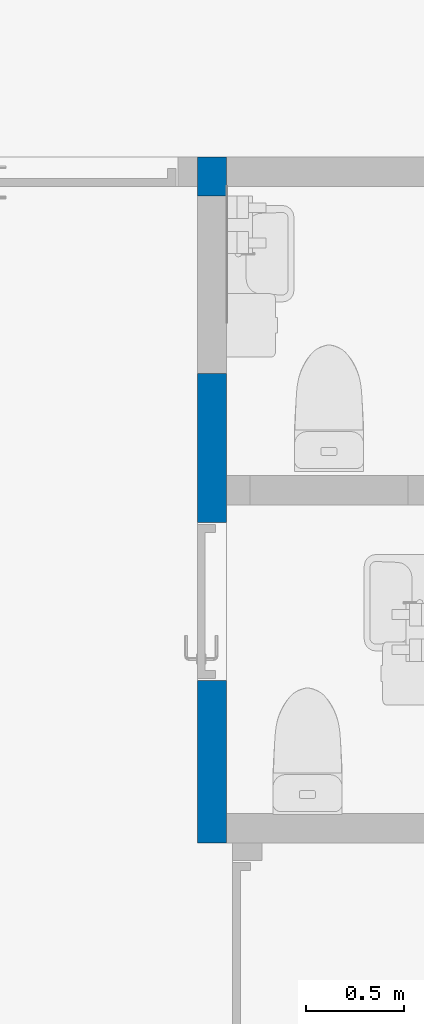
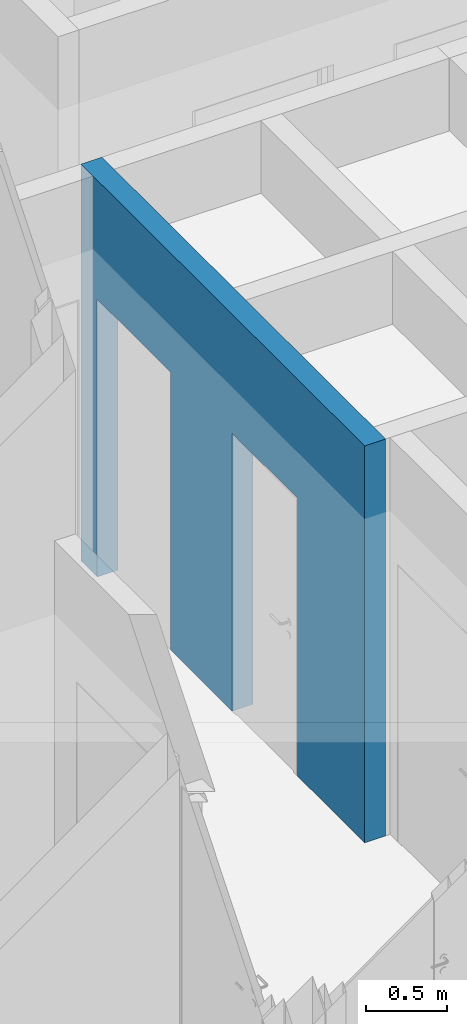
# One storey, part 7 of 58: 1 wall, 2 openings.
"""IFC2X3 building model written with IfcOpenShell, lengths in millimetres."""

from ifc_helpers import new_model, entity, si_unit, converted_unit, derived_unit, direction, frame, frame_2d, origin, place, context, subcontext, project, spatial, rectangle, extrude, material, layer, layer_set, layer_usage, type_object, element, save


model = new_model("IFC2X3")

# Units and contexts
model_context = context("Model", 3, precision=0.01, world=origin(), true_north=direction((0.7716245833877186, 0.6360782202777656)))
body_context = subcontext(model_context, "Body", "Model", "MODEL_VIEW")
ifc_project = project(units=[si_unit("LENGTHUNIT", "METRE", prefix="MILLI"), si_unit("AREAUNIT", "SQUARE_METRE"), converted_unit("PLANEANGLEUNIT", "DEGREE", entity("IfcPlaneAngleMeasure", 0.017453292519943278), si_unit("PLANEANGLEUNIT", "RADIAN"), dimensions=[0, 0, 0, 0, 0, 0, 0]), derived_unit("THERMALTRANSMITTANCEUNIT", [(si_unit("MASSUNIT", "GRAM", prefix="KILO"), 1), (si_unit("THERMODYNAMICTEMPERATUREUNIT", "KELVIN"), -1), (si_unit("TIMEUNIT", "SECOND"), -3)])], contexts=[model_context])

# Site, building, storey
site_placement = place(None, origin())
site = spatial("IfcSite", under=ifc_project, at=site_placement, Name="Default", CompositionType="ELEMENT")
building_placement = place(site_placement, origin())
building = spatial("IfcBuilding", under=site, at=building_placement, CompositionType="ELEMENT")
storey_placement = place(building_placement, frame((0.0, 0.0, 31140.0)))
storey = spatial("IfcBuildingStorey", under=building, at=storey_placement, Name="PLAN U1", CompositionType="ELEMENT", Elevation=31140.000000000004)

# Wall, openings
ifc_material = material(Name="Eksist. vegg")
ifc_layer = layer(ifc_material, 150.0)
ifc_layer_set = layer_set([ifc_layer], Name="Basic Wall:240 Eksist. Innervegg 150 mm")
ifc_layer_usage = layer_usage(ifc_layer_set, "AXIS2", "NEGATIVE", 75.0)
wall_type = type_object("IfcWallType", Name="Basic Wall:240 Eksist. Innervegg 150 mm", PredefinedType="STANDARD", material=ifc_layer_set)
wall_placement = place(storey_placement, frame((263367.92444647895, 62754.50163955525, 0.0), z_axis=(0.0, 0.0, 1.0), x_axis=(0.0, -1.0, 0.0)))
wall = element("IfcWallStandardCase", 1, at=wall_placement, inside=storey, type_object=wall_type, material=ifc_layer_usage, Name="Basic Wall:240 Eksist. Innervegg 150 mm", ObjectType="Basic Wall:240 Eksist. Innervegg 150 mm", context=body_context, shape_type="SweptSolid", body=[
    extrude(rectangle(XDim=3514.24608947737, YDim=150.00000000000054, at=frame_2d((1757.123044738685, 0.0), x_axis=(1.0, 0.0))), origin(), (0.0, 0.0, 1.0), 2999.9999999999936),
])
opening_1_placement = place(wall_placement, frame((62754.50163955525, -263367.92444647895, 0.0), z_axis=(0.0, 0.0, 1.0), x_axis=(0.0, 1.0, 0.0)))
element("IfcOpeningElement", 2, at=opening_1_placement, cuts=wall, Name="Basic Wall:240 Eksist. Innervegg 150 mm", ObjectType="Opening", context=body_context, shape_type="SweptSolid", body=[
    extrude(rectangle(XDim=2100.0000000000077, YDim=910.000000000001, at=frame_2d((-2.1600499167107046e-12, 0.0), x_axis=(1.0, 0.0))), frame((261768.92444647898, 62099.50163955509, 1050.0), z_axis=(1.0, 0.0, 0.0), x_axis=(0.0, 0.0, 1.0)), (0.0, 0.0, 1.0), 3048.0),
])
opening_2_placement = place(wall_placement, frame((2682.1230447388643, 75.0, 0.0)))
element("IfcOpeningElement", 3, at=opening_2_placement, cuts=wall, Name="Enfløyet:244 Innvendig AAa 8x21M - Tett:1", ObjectType="Opening", context=body_context, shape_type="SweptSolid", body=[
    extrude(rectangle(XDim=2100.0, YDim=810.0, at=frame_2d((1049.9999999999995, 405.0), x_axis=(1.0, 0.0))), frame((0.0, 0.0, 0.0), z_axis=(0.0, -1.0, 0.0), x_axis=(0.0, 0.0, 1.0)), (0.0, 0.0, 1.0), 150.0),
])

save(model, "model.ifc")
